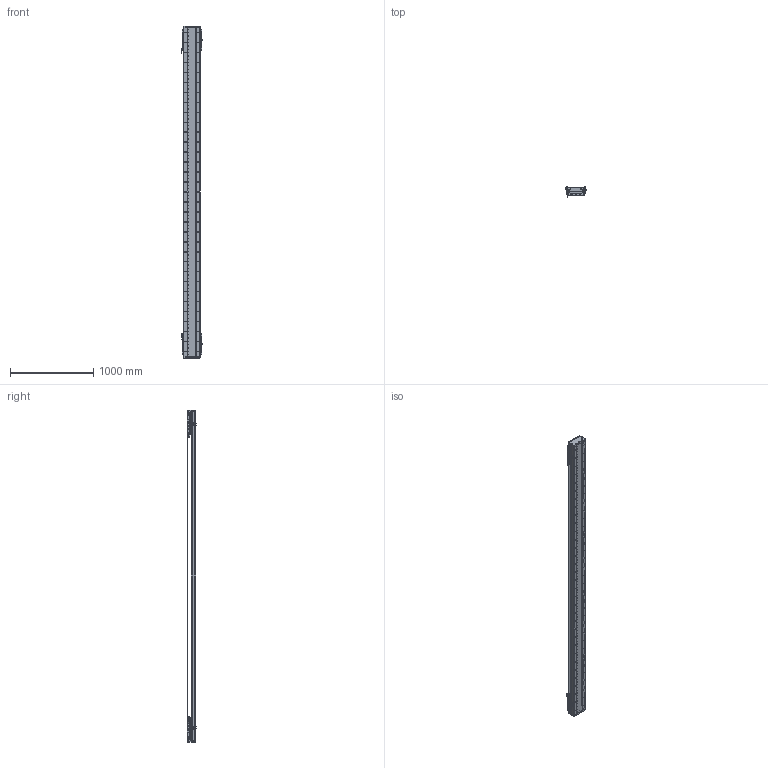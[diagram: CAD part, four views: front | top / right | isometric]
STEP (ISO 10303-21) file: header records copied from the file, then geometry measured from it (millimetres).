
FILE_DESCRIPTION (( 'STEP AP203' ), '1' );
FILE_NAME ('DA-C195-2-C3-T3380-C010-0.2 眻盄萇儂.STEP', '2025-08-15T00:55:58', ( '' ), ( '' ), 'SwSTEP 2.0', 'SolidWorks 2019', '' );
FILE_SCHEMA (( 'CONFIG_CONTROL_DESIGN' ));
Length unit declared in the file: millimetre
Products named in the file (19): DA95-HXJ-00 遣喳砎蝶; DA-C195-GD-DB-H-00 傷啣; MS200 棠掑喜S315-T240; DA-C195-2-C3-T3380-C010-0.2 眻盄萇儂; DA195詩湍嶺輸; DKW-KGZ-ZJ-00 中间光电开关支架; DKW168-HXJ-ZJ-00 笢潔滅袉砎蝶; IU-CU195-L 菁釱絳寢; PM-T45ㄗ侂狟ㄘ; CU195-C3賑輸-俋楷; DA195詩湍郪璃; DKW-GYP-ZJ-00 笢潔嫖萇覜茼え; PM-Y65嫖萇羲壽郪璃; DA195詩湍裔啣; DA195詩湍菜輸; DA165-GYP-00 光电感应片(默认); IU-CU195-L-00 菁釱(L3960); 葩璃 DA95-GT-T-00; LMT黍杅芛
Assembly tree (37 placements, depth 3):
  DA-C195-2-C3-T3380-C010-0.2 眻盄萇儂
    DA195詩湍郪璃
      DA195詩湍菜輸  x2
      DA195詩湍裔啣
      DA195詩湍嶺輸  x2
      DA95-HXJ-00 遣喳砎蝶  x8
      DA-C195-GD-DB-H-00 傷啣  x2
    IU-CU195-L 菁釱絳寢
      IU-CU195-L-00 菁釱(L3960)
      葩璃 DA95-GT-T-00  x4
    LMT黍杅芛  x2
    MS200 棠掑喜S315-T240
    PM-T45ㄗ侂狟ㄘ  x4
    DA165-GYP-00 光电感应片(默认)  x2
    PM-Y65嫖萇羲壽郪璃
    DKW168-HXJ-ZJ-00 笢潔滅袉砎蝶
    DKW-GYP-ZJ-00 笢潔嫖萇覜茼え
    DKW-KGZ-ZJ-00 中间光电开关支架
    CU195-C3賑輸-俋楷  x2
Bounding box: 258.2 x 115.45 x 4000 mm (x, y, z)
Volume: 23970299.6 mm3; surface area: 7021342.8 mm2
Topology: 154 solids, 218 shells, 7459 faces, 20607 edges, 12933 vertices
Faces by surface type: cylinder 3834, plane 2573, cone 884, torus 88, sphere 72, bspline 8
Entity records: 179149 total; most frequent: CARTESIAN_POINT 51601, ORIENTED_EDGE 27230, DIRECTION 25080, EDGE_CURVE 13615, AXIS2_PLACEMENT_3D 9289, VERTEX_POINT 8858, VECTOR 6502, LINE 6502
